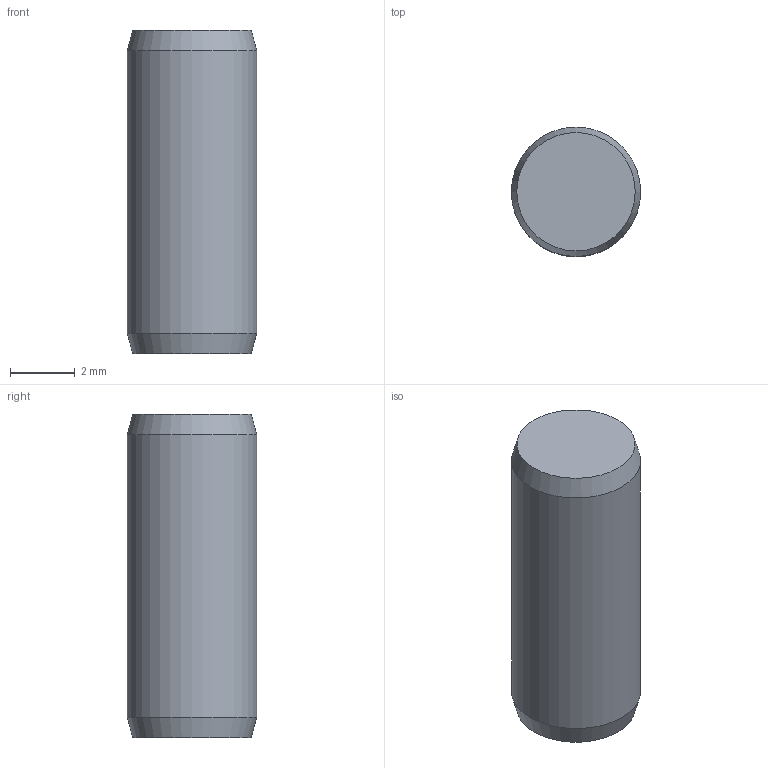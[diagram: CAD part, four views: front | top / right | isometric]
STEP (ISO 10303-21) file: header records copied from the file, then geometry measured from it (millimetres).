
FILE_DESCRIPTION(/* description */ ('STEP AP242 Edition 2','CAx-IF Rec.Pracs.---Representation and Presentation of Product Manufacturing Information (PMI)---4.0---2014-10-13','CAx-IF Rec.Pracs.---3D Tessellated Geometry---0.4---2014-09-14','2;1','CAx-IF Rec.Pracs.---User Defined Attributes---1.5---2016-08-15'),/* implementation_level */ '2;1');
FILE_NAME(/* name */ 'Assy_ForMFG - Parallel pin 4 x 10 (17)',/* time_stamp */ '2026-05-15T19:56:55Z',/* author */ (''),/* organization */ (''),/* preprocessor_version */ 'ST-DEVELOPER v20',/* originating_system */ 'ONSHAPE BY PTC INC, 1.215',/* authorisation */ ' ');
FILE_SCHEMA (('AP242_MANAGED_MODEL_BASED_3D_ENGINEERING_MIM_LF { 1 0 10303 442 3 1 4 }'));
Length unit declared in the file: metre
Products named in the file (1): Parallel pin 4 x 10
Bounding box: 4 x 4 x 10 mm (x, y, z)
Volume: 124.4 mm3; surface area: 146.6 mm2
Topology: 1 solids, 1 shells, 5 faces, 7 edges, 4 vertices
Faces by surface type: plane 2, cone 2, cylinder 1
Full cylindrical faces by diameter (mm): 4 x1
Entity records: 116 total; most frequent: DIRECTION 20, CARTESIAN_POINT 14, AXIS2_PLACEMENT_3D 10, ORIENTED_EDGE 8, EDGE_LOOP 8, FACE_BOUND 8, ADVANCED_FACE 5, EDGE_CURVE 4
